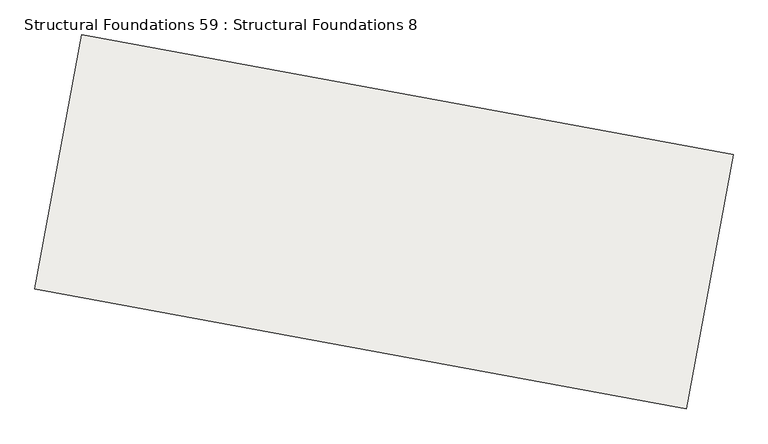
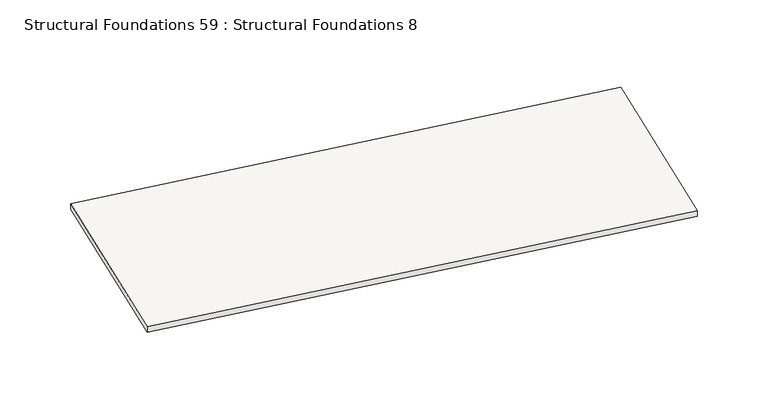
"""IFC4 building model written with IfcOpenShell, lengths in millimetres: slab geometry, Structural Foundations 59 : Structural Foundations 8."""

from ifc_helpers import new_model, si_unit, origin, place, context, project, spatial, faceted_brep, source, transform, mapped, element, save


def structural_foundations_59_structural_foundations_8_3fd9abd4(model_context):
    return source(origin(), model_context, "Body", "Brep", [
        faceted_brep([(-364449.0422708, -447355.5065155, 634339.0035917), (-365065.146514, -450699.2193553, 634339.0035917), (-365065.146514, -450699.2193553, 634239.0035917), (-364449.0422708, -447355.5065155, 634239.0035917), (-373005.0133631, -445779.0044802, 634265.9007794), (-373005.0133631, -445779.0044802, 634165.9007794), (-373621.1176062, -449122.7173203, 634165.9007794), (-373621.1176062, -449122.7173203, 634265.9007794)], [[[0, 1, 2, 3]], [[4, 5, 6, 7]], [[4, 7, 1, 0]], [[6, 5, 3, 2]], [[7, 6, 2, 1]], [[5, 4, 0, 3]]]),
    ])


if __name__ == "__main__":
    model = new_model("IFC4")
    model_context = context("Model", 3, world=origin())
    ifc_project = project(units=[si_unit("LENGTHUNIT", "METRE", prefix="MILLI")], contexts=[model_context])
    site = spatial("IfcSite", under=ifc_project)
    building = spatial("IfcBuilding", under=site)
    placement = place(None, origin())
    structural_foundations_59_structural_foundations_8_shape = structural_foundations_59_structural_foundations_8_3fd9abd4(model_context)
    element("IfcSlab", 1, ObjectType="Structural Foundations 59 : Structural Foundations 8", at=placement, inside=building, context=model_context, shape_type="MappedRepresentation", body=[
        mapped(structural_foundations_59_structural_foundations_8_shape, transform((0.0, 0.0, 0.0), x_axis=(1.0, 0.0, 0.0), y_axis=(0.0, 1.0, 0.0), z_axis=(0.0, 0.0, 1.0))),
    ])
    save(model, "model.ifc")
